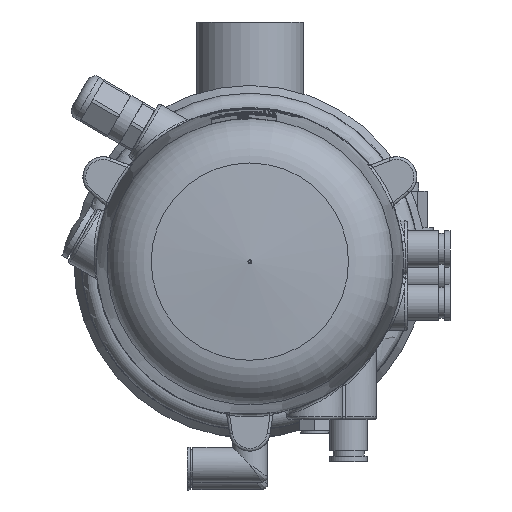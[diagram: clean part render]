
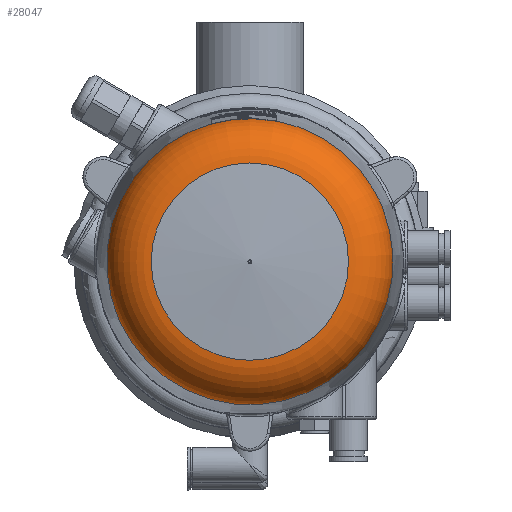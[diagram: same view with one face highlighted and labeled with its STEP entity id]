
A CAD part, front view. The second image highlights one B-rep face of the part: STEP entity #28047.
In plain terms, the highlighted toroidal (fillet/blend) face has major radius 33.812 mm and minor radius 17 mm.
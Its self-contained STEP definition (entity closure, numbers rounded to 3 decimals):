
#2353 = CIRCLE ( 'NONE', #45648, 50.792 ) ;
#2534 = DIRECTION ( 'NONE',  ( 0., 0., -1. ) ) ;
#5423 = CARTESIAN_POINT ( 'NONE',  ( 0., 140.491, 0. ) ) ;
#5602 = CARTESIAN_POINT ( 'NONE',  ( -38.517, 140.463, -33.11 ) ) ;
#6375 = DIRECTION ( 'NONE',  ( 0., 1., 0. ) ) ;
#6678 = CARTESIAN_POINT ( 'NONE',  ( -38.517, 140.463, -33.11 ) ) ;
#6859 = CARTESIAN_POINT ( 'NONE',  ( -49.218, 140.463, -12.546 ) ) ;
#6946 = AXIS2_PLACEMENT_3D ( 'NONE', #5423, #6375, #45701 ) ;
#7947 = EDGE_CURVE ( 'NONE', #23598, #38098, #26461, .T. ) ;
#9609 = EDGE_LOOP ( 'NONE', ( #26839, #28896, #37021, #50158 ) ) ;
#10339 = EDGE_CURVE ( 'NONE', #23598, #34465, #55322, .T. ) ;
#12155 = CARTESIAN_POINT ( 'NONE',  ( -38.515, 140.491, -33.11 ) ) ;
#12543 = DIRECTION ( 'NONE',  ( 0., 0., -1. ) ) ;
#17396 = FACE_OUTER_BOUND ( 'NONE', #9609, .T. ) ;
#18787 = CIRCLE ( 'NONE', #35234, 34.998 ) ;
#21133 = CARTESIAN_POINT ( 'NONE',  ( -49.217, 140.491, -12.546 ) ) ;
#22130 = CARTESIAN_POINT ( 'NONE',  ( -38.516, 140.482, -33.11 ) ) ;
#23598 = VERTEX_POINT ( 'NONE', #12155 ) ;
#26393 = FACE_OUTER_BOUND ( 'NONE', #32146, .T. ) ;
#26461 = CIRCLE ( 'NONE', #6946, 50.791 ) ;
#26839 = ORIENTED_EDGE ( 'NONE', *, *, #10339, .F. ) ;
#28047 = ADVANCED_FACE ( 'NONE', ( #17396, #26393 ), #51201, .T. ) ;
#28896 = ORIENTED_EDGE ( 'NONE', *, *, #7947, .T. ) ;
#30421 = ORIENTED_EDGE ( 'NONE', *, *, #32695, .T. ) ;
#31302 = CARTESIAN_POINT ( 'NONE',  ( -49.217, 140.491, -12.546 ) ) ;
#32146 = EDGE_LOOP ( 'NONE', ( #30421 ) ) ;
#32695 = EDGE_CURVE ( 'NONE', #57658, #57658, #18787, .T. ) ;
#34465 = VERTEX_POINT ( 'NONE', #5602 ) ;
#35234 = AXIS2_PLACEMENT_3D ( 'NONE', #46165, #60036, #45859 ) ;
#35723 = EDGE_CURVE ( 'NONE', #38098, #45651, #52277, .T. ) ;
#36084 = DIRECTION ( 'NONE',  ( 0., -1., 0. ) ) ;
#37021 = ORIENTED_EDGE ( 'NONE', *, *, #35723, .T. ) ;
#38098 = VERTEX_POINT ( 'NONE', #21133 ) ;
#40843 = CARTESIAN_POINT ( 'NONE',  ( -38.515, 140.491, -33.11 ) ) ;
#41612 = EDGE_CURVE ( 'NONE', #34465, #45651, #2353, .T. ) ;
#45648 = AXIS2_PLACEMENT_3D ( 'NONE', #46679, #63013, #12543 ) ;
#45651 = VERTEX_POINT ( 'NONE', #50945 ) ;
#45701 = DIRECTION ( 'NONE',  ( 0., 0., -1. ) ) ;
#45859 = DIRECTION ( 'NONE',  ( 0., 0., -1. ) ) ;
#46082 = AXIS2_PLACEMENT_3D ( 'NONE', #60900, #36084, #2534 ) ;
#46165 = CARTESIAN_POINT ( 'NONE',  ( 0., 156.588, 0. ) ) ;
#46679 = CARTESIAN_POINT ( 'NONE',  ( 0., 140.463, 0. ) ) ;
#50158 = ORIENTED_EDGE ( 'NONE', *, *, #41612, .F. ) ;
#50945 = CARTESIAN_POINT ( 'NONE',  ( -49.218, 140.463, -12.546 ) ) ;
#51201 = TOROIDAL_SURFACE ( 'NONE', #46082, 33.812, 17. ) ;
#52277 = B_SPLINE_CURVE_WITH_KNOTS ( 'NONE', 3,
 ( #31302, #60351, #55195, #6859 ),
 .UNSPECIFIED., .F., .F.,
 ( 4, 4 ),
 ( 0., 0. ),
 .UNSPECIFIED. ) ;
#55195 = CARTESIAN_POINT ( 'NONE',  ( -49.218, 140.473, -12.546 ) ) ;
#55322 = B_SPLINE_CURVE_WITH_KNOTS ( 'NONE', 3,
 ( #40843, #22130, #56599, #6678 ),
 .UNSPECIFIED., .F., .F.,
 ( 4, 4 ),
 ( 0., 0. ),
 .UNSPECIFIED. ) ;
#56599 = CARTESIAN_POINT ( 'NONE',  ( -38.516, 140.473, -33.11 ) ) ;
#57349 = CARTESIAN_POINT ( 'NONE',  ( 0., 156.588, -34.998 ) ) ;
#57658 = VERTEX_POINT ( 'NONE', #57349 ) ;
#60036 = DIRECTION ( 'NONE',  ( 0., -1., 0. ) ) ;
#60351 = CARTESIAN_POINT ( 'NONE',  ( -49.217, 140.482, -12.546 ) ) ;
#60900 = CARTESIAN_POINT ( 'NONE',  ( 0., 139.629, 0. ) ) ;
#63013 = DIRECTION ( 'NONE',  ( 0., -1., 0. ) ) ;
